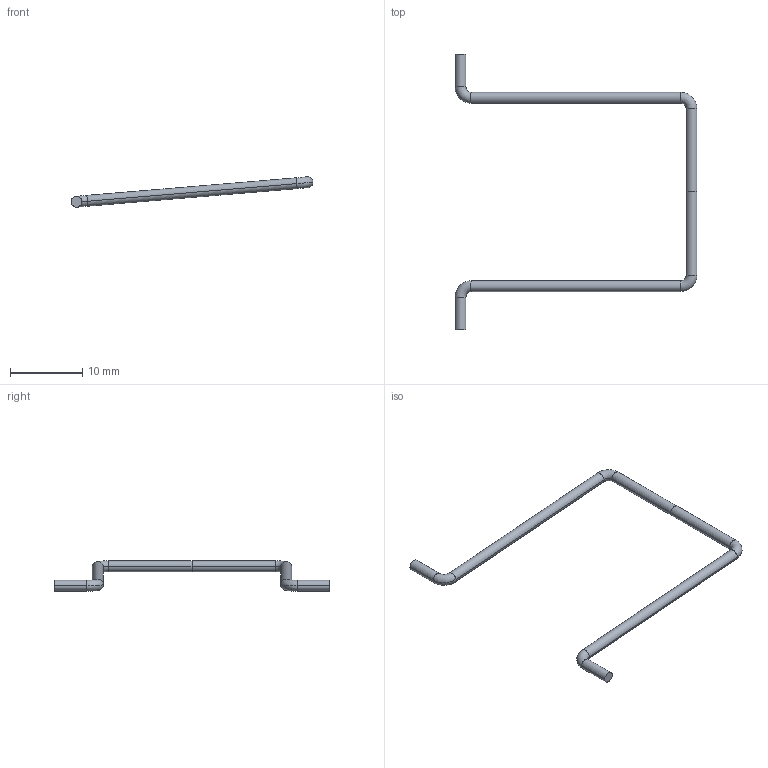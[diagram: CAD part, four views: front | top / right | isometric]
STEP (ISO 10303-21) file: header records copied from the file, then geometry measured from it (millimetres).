
FILE_DESCRIPTION(('CATIA V5 STEP Exchange'),'2;1');
FILE_NAME('D:\交接\张长江\21-Benz H6\光华荣昌转盘数据\H6 转盘\转盘用整椅数据 A9609109920\sample\H6 转盘夏季测试样件方案_20240617\样件数据\弹簧和钢丝\SHT0017294-112 锁止机构扭簧.stp','2024-06-19T07:29:21+00:00',('none'),('none'),'CATIA Version 5 Release 20 GA (IN-10)','CATIA V5 STEP AP203 Edition 2','none');
FILE_SCHEMA(('AP203_CONFIGURATION_CONTROLLED_3D_DESIGN_OF_MECHANICAL_PARTS_AND_ASSEMBLIES_MIM_LF { 1 0 10303 403 2 1 2}'));
Length unit declared in the file: millimetre
Products named in the file (1): SHT0017294-11
Bounding box: 33.39 x 38 x 4.18 mm (x, y, z)
Volume: 175.7 mm3; surface area: 472.1 mm2
Topology: 1 solids, 1 shells, 22 faces, 42 edges, 22 vertices
Faces by surface type: cylinder 12, torus 8, plane 2
Entity records: 488 total; most frequent: ORIENTED_EDGE 84, CARTESIAN_POINT 75, DIRECTION 62, EDGE_CURVE 42, AXIS2_PLACEMENT_3D 41, CIRCLE 30, ADVANCED_FACE 22, VERTEX_POINT 22
